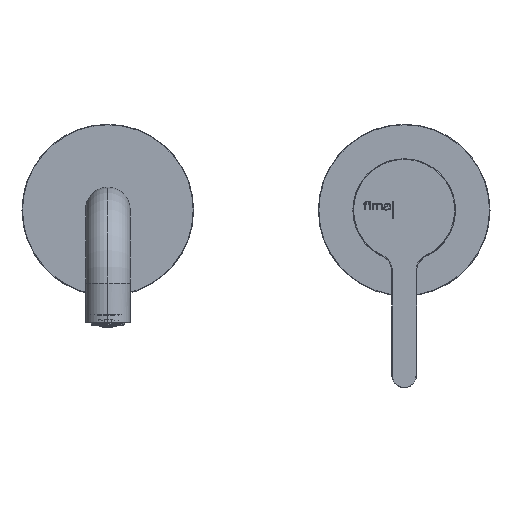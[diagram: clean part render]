
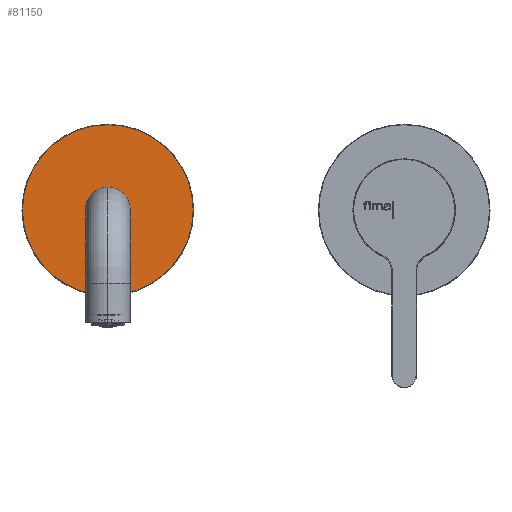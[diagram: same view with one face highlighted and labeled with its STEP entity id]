
A CAD part, top view. The second image highlights one B-rep face of the part: STEP entity #81150.
In plain terms, the highlighted planar face has unit normal (0, 0, 1).
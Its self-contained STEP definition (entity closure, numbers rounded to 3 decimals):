
#17636=CARTESIAN_POINT('',(-65.5,34.5,87.05));
#17637=DIRECTION('',(0.,0.,1.));
#17638=DIRECTION('',(1.,0.,0.));
#17639=AXIS2_PLACEMENT_3D('',#17636,#17637,#17638);
#17641=CARTESIAN_POINT('',(-65.5,34.5,87.05));
#17642=DIRECTION('',(0.,0.,1.));
#17643=DIRECTION('',(-1.,0.,0.));
#17644=AXIS2_PLACEMENT_3D('',#17641,#17642,#17643);
#17646=CARTESIAN_POINT('',(-65.5,34.5,87.05));
#17647=DIRECTION('',(0.,0.,1.));
#17648=DIRECTION('',(0.,1.,0.));
#17649=AXIS2_PLACEMENT_3D('',#17646,#17647,#17648);
#17651=CARTESIAN_POINT('',(-65.5,34.5,87.05));
#17652=DIRECTION('',(0.,0.,1.));
#17653=DIRECTION('',(0.,-1.,0.));
#17654=AXIS2_PLACEMENT_3D('',#17651,#17652,#17653);
#70179=CARTESIAN_POINT('',(-30.95,34.5,87.05));
#70180=CARTESIAN_POINT('',(-100.05,34.5,87.05));
#70181=VERTEX_POINT('',#70179);
#70182=VERTEX_POINT('',#70180);
#71081=CARTESIAN_POINT('',(-65.5,43.3,87.05));
#71082=CARTESIAN_POINT('',(-65.5,25.7,87.05));
#71083=VERTEX_POINT('',#71081);
#71084=VERTEX_POINT('',#71082);
#81134=CARTESIAN_POINT('',(-65.5,34.5,87.05));
#81135=DIRECTION('',(0.,0.,-1.));
#81136=DIRECTION('',(-1.,0.,0.));
#81137=AXIS2_PLACEMENT_3D('',#81134,#81135,#81136);
#81138=PLANE('',#81137);
#81140=ORIENTED_EDGE('',*,*,#81139,.F.);
#81142=ORIENTED_EDGE('',*,*,#81141,.F.);
#81143=EDGE_LOOP('',(#81140,#81142));
#81144=FACE_OUTER_BOUND('',#81143,.F.);
#81146=ORIENTED_EDGE('',*,*,#81145,.T.);
#81147=ORIENTED_EDGE('',*,*,#81124,.T.);
#81148=EDGE_LOOP('',(#81146,#81147));
#81149=FACE_BOUND('',#81148,.F.);
#81150=ADVANCED_FACE('',(#81144,#81149),#81138,.F.);
#17640=CIRCLE('',#17639,34.55);
#17645=CIRCLE('',#17644,34.55);
#17650=CIRCLE('',#17649,8.8);
#17655=CIRCLE('',#17654,8.8);
#81124=EDGE_CURVE('',#71084,#71083,#17655,.T.);
#81139=EDGE_CURVE('',#70181,#70182,#17640,.T.);
#81141=EDGE_CURVE('',#70182,#70181,#17645,.T.);
#81145=EDGE_CURVE('',#71083,#71084,#17650,.T.);
